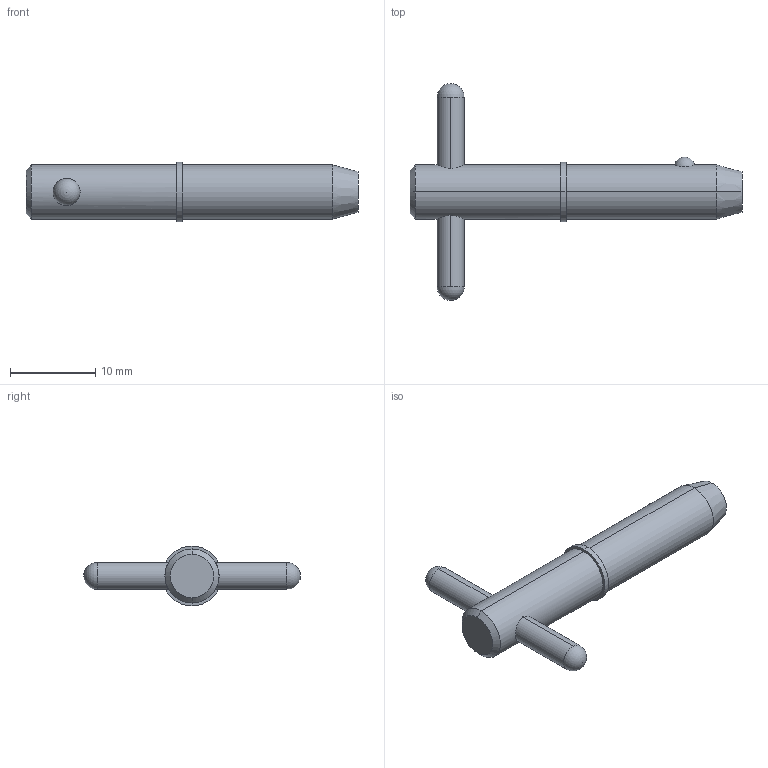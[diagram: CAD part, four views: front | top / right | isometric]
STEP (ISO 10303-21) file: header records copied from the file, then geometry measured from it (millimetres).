
FILE_DESCRIPTION (( 'STEP AP203' ), '1' );
FILE_NAME ('33018.W2505.step', '2024-11-19T17:07:47', ( '' ), ( '' ), 'SwSTEP 2.0', 'SolidWorks 2019', '' );
FILE_SCHEMA (( 'CONFIG_CONTROL_DESIGN' ));
Length unit declared in the file: millimetre
Products named in the file (3): Part2_33018.W2505; 33018.W2505; Part1_33018.W2505
Assembly tree (2 placements, depth 2):
  33018.W2505
    Part1_33018.W2505
    Part2_33018.W2505
Bounding box: 38.91 x 25.4 x 6.99 mm (x, y, z)
Volume: 1357.5 mm3; surface area: 1125.7 mm2
Topology: 2 solids, 2 shells, 22 faces, 47 edges, 30 vertices
Faces by surface type: cylinder 10, sphere 4, cone 4, plane 4
Entity records: 993 total; most frequent: CARTESIAN_POINT 236, DIRECTION 110, ORIENTED_EDGE 82, AXIS2_PLACEMENT_3D 48, EDGE_CURVE 41, EDGE_LOOP 27, PERSON_AND_ORGANIZATION 26, VERTEX_POINT 26
